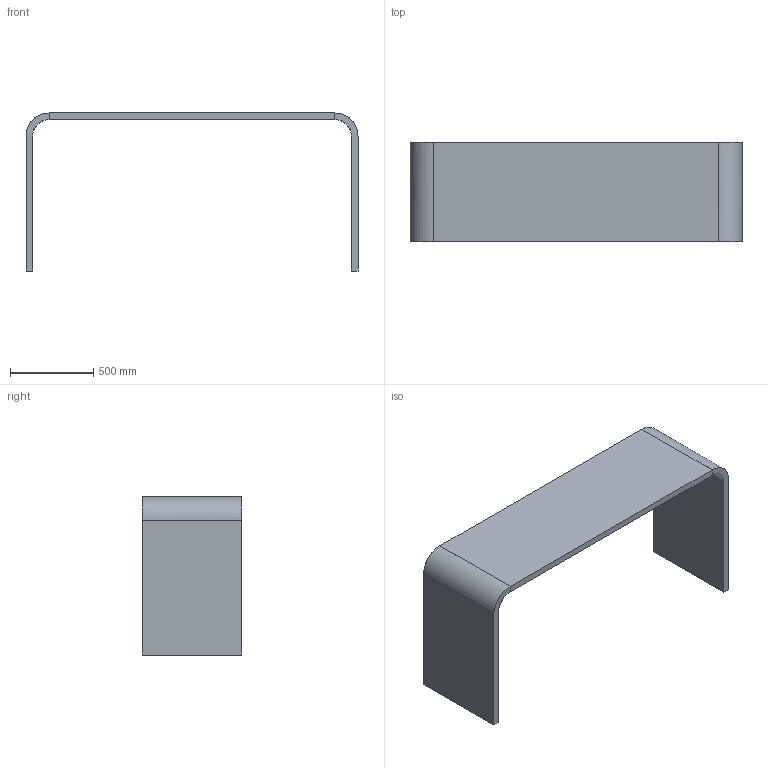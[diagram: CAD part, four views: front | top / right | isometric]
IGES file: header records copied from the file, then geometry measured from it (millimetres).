
Start section: Comment
Global section: file name: M10-3-20.igs; native system:  By UGS Corp.; preprocessor: XPlus GENERIC/IGES 3.0; author: Author; organization: Title; date: 20140729.103921; units: inch
Bounding box: 1996 x 598 x 950 mm (x, y, z)
Surface area: 4881156.3 mm2 (no closed solid volume)
Topology: 0 solids, 0 shells, 22 faces, 96 edges, 96 vertices
Faces by surface type: bspline 22
